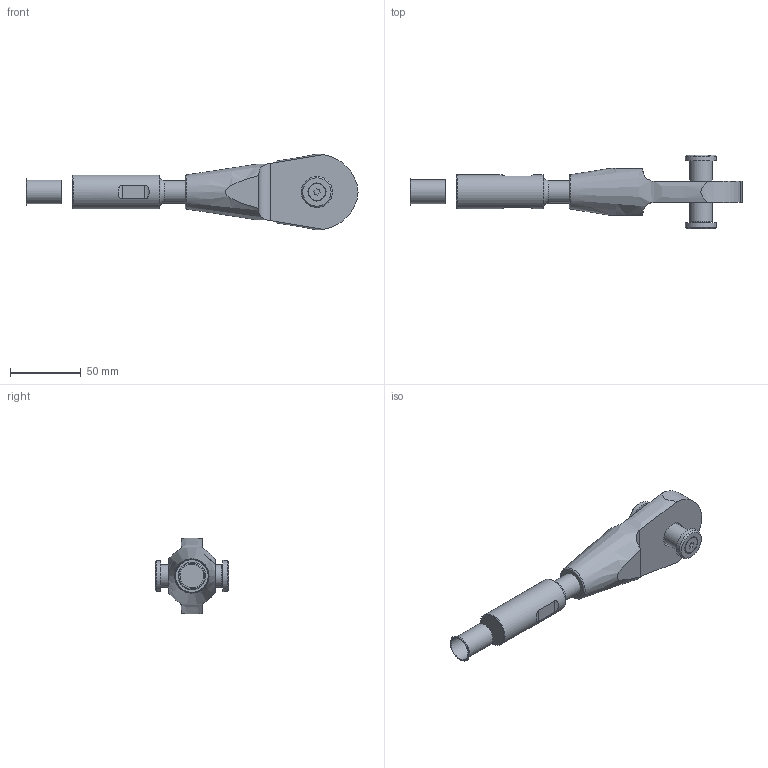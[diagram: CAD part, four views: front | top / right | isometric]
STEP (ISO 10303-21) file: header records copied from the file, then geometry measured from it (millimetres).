
FILE_DESCRIPTION(/* description */ (''),/* implementation_level */ '2;1');
FILE_NAME(/* name */ 'C:\Vault_WS\Designs\SB\01-PX\Verzinkt\ZSS\520 - Zusambau-OES-ADA\520-016-OES-ADA.stp',/* time_stamp */ '2020-10-07T15:33:27+02:00',/* author */ ('schwarz'),/* organization */ (''),/* preprocessor_version */ 'ST-DEVELOPER v18.1',/* originating_system */ 'Autodesk Inventor 2020',/* authorisation */ '');
FILE_SCHEMA (('AUTOMOTIVE_DESIGN { 1 0 10303 214 3 1 1 }'));
Length unit declared in the file: millimetre
Products named in the file (1): 520-016-OES-ADA-Kunde
Bounding box: 234.5 x 52.21 x 53.46 mm (x, y, z)
Volume: 142307.5 mm3; surface area: 32176.8 mm2
Topology: 6 solids, 6 shells, 63 faces, 151 edges, 105 vertices
Faces by surface type: plane 28, cylinder 20, cone 12, torus 3
Full cylindrical faces by diameter (mm): 4.917 x1, 6 x1, 6.8 x1, 12 x1, 16 x2, 16.8 x1, 18 x1, 22 x2, 24 x1
Entity records: 2145 total; most frequent: CARTESIAN_POINT 509, DIRECTION 325, ORIENTED_EDGE 300, EDGE_CURVE 150, AXIS2_PLACEMENT_3D 134, VERTEX_POINT 105, EDGE_LOOP 73, CIRCLE 70
